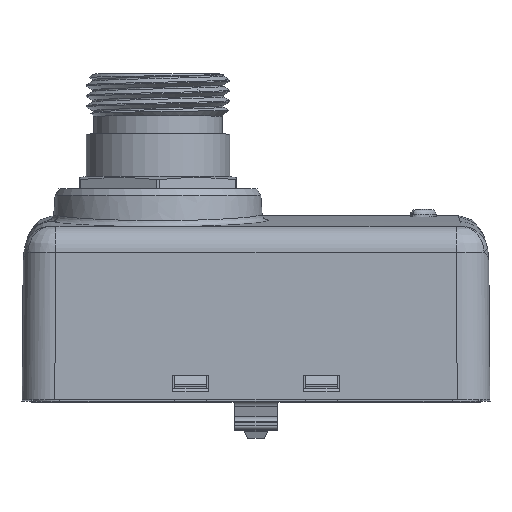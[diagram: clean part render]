
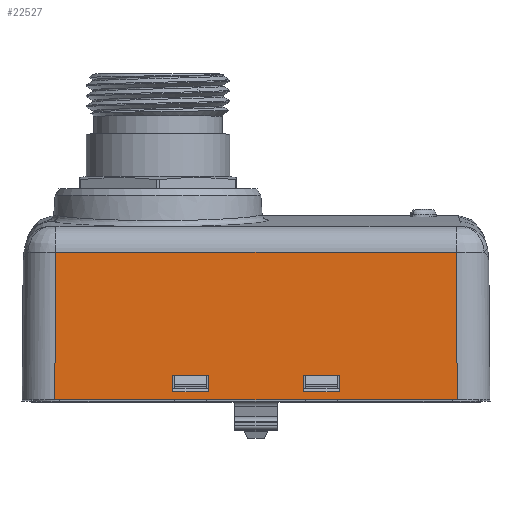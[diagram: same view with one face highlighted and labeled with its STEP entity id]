
A CAD part, top view. The second image highlights one B-rep face of the part: STEP entity #22527.
In plain terms, the highlighted planar face has unit normal (0, 0.009, 1).
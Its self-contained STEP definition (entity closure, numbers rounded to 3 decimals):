
#14218=CARTESIAN_POINT('',(-30.798,-15.3,55.798));
#14371=CARTESIAN_POINT('',(30.602,7.248,55.601));
#14615=CARTESIAN_POINT('',(-30.602,7.248,
55.601));
#14617=DIRECTION('',(-0.009,1.,-0.009));
#14618=VECTOR('',#14617,22.55);
#14619=CARTESIAN_POINT('',(30.798,-15.3,55.798));
#14620=LINE('',#14619,#14618);
#14621=DIRECTION('',(1.,0.,0.));
#14622=VECTOR('',#14621,61.597);
#14623=CARTESIAN_POINT('',(-30.798,-15.3,55.798));
#14624=LINE('',#14623,#14622);
#14625=DIRECTION('',(-0.009,-1.,0.009));
#14626=VECTOR('',#14625,22.55);
#14627=CARTESIAN_POINT('',(-30.602,7.248,
55.601));
#14628=LINE('',#14627,#14626);
#14629=DIRECTION('',(-1.,0.,0.));
#14630=VECTOR('',#14629,61.203);
#14631=CARTESIAN_POINT('',(30.602,7.248,55.601));
#14632=LINE('',#14631,#14630);
#18567=DIRECTION('',(0.,1.,-0.009));
#18568=VECTOR('',#18567,0.6);
#18569=CARTESIAN_POINT('',(7.25,-14.1,55.788));
#18570=LINE('',#18569,#18568);
#18571=DIRECTION('',(0.,1.,-0.009));
#18572=VECTOR('',#18571,2.);
#18573=CARTESIAN_POINT('',(7.25,-13.5,55.783));
#18574=LINE('',#18573,#18572);
#18591=DIRECTION('',(1.,0.,0.));
#18592=VECTOR('',#18591,5.5);
#18593=CARTESIAN_POINT('',(7.25,-14.1,55.788));
#18594=LINE('',#18593,#18592);
#18607=DIRECTION('',(0.,-1.,0.009));
#18608=VECTOR('',#18607,2.);
#18609=CARTESIAN_POINT('',(12.75,-11.5,55.765));
#18610=LINE('',#18609,#18608);
#18611=DIRECTION('',(0.,-1.,0.009));
#18612=VECTOR('',#18611,0.6);
#18613=CARTESIAN_POINT('',(12.75,-13.5,55.783));
#18614=LINE('',#18613,#18612);
#18619=DIRECTION('',(-1.,0.,0.));
#18620=VECTOR('',#18619,5.5);
#18621=CARTESIAN_POINT('',(12.75,-11.5,55.765));
#18622=LINE('',#18621,#18620);
#18635=DIRECTION('',(0.,1.,-0.009));
#18636=VECTOR('',#18635,0.6);
#18637=CARTESIAN_POINT('',(-12.75,-14.1,55.788));
#18638=LINE('',#18637,#18636);
#18639=DIRECTION('',(0.,1.,-0.009));
#18640=VECTOR('',#18639,2.);
#18641=CARTESIAN_POINT('',(-12.75,-13.5,55.783));
#18642=LINE('',#18641,#18640);
#18659=DIRECTION('',(1.,0.,0.));
#18660=VECTOR('',#18659,5.5);
#18661=CARTESIAN_POINT('',(-12.75,-14.1,55.788));
#18662=LINE('',#18661,#18660);
#18675=DIRECTION('',(0.,-1.,0.009));
#18676=VECTOR('',#18675,2.);
#18677=CARTESIAN_POINT('',(-7.25,-11.5,55.765));
#18678=LINE('',#18677,#18676);
#18679=DIRECTION('',(0.,-1.,0.009));
#18680=VECTOR('',#18679,0.6);
#18681=CARTESIAN_POINT('',(-7.25,-13.5,55.783));
#18682=LINE('',#18681,#18680);
#18687=DIRECTION('',(-1.,0.,0.));
#18688=VECTOR('',#18687,5.5);
#18689=CARTESIAN_POINT('',(-7.25,-11.5,55.765));
#18690=LINE('',#18689,#18688);
#20058=CARTESIAN_POINT('',(7.25,-13.5,55.783));
#20059=CARTESIAN_POINT('',(7.25,-11.5,55.765));
#20060=VERTEX_POINT('',#20058);
#20061=VERTEX_POINT('',#20059);
#20062=CARTESIAN_POINT('',(7.25,-14.1,55.788));
#20063=VERTEX_POINT('',#20062);
#20064=CARTESIAN_POINT('',(12.75,-14.1,55.788));
#20065=VERTEX_POINT('',#20064);
#20066=CARTESIAN_POINT('',(12.75,-13.5,55.783));
#20067=VERTEX_POINT('',#20066);
#20068=CARTESIAN_POINT('',(12.75,-11.5,55.765));
#20069=VERTEX_POINT('',#20068);
#20070=CARTESIAN_POINT('',(-12.75,-13.5,55.783));
#20071=CARTESIAN_POINT('',(-12.75,-11.5,55.765));
#20072=VERTEX_POINT('',#20070);
#20073=VERTEX_POINT('',#20071);
#20074=CARTESIAN_POINT('',(-12.75,-14.1,55.788));
#20075=VERTEX_POINT('',#20074);
#20076=CARTESIAN_POINT('',(-7.25,-14.1,55.788));
#20077=VERTEX_POINT('',#20076);
#20078=CARTESIAN_POINT('',(-7.25,-13.5,55.783));
#20079=VERTEX_POINT('',#20078);
#20080=CARTESIAN_POINT('',(-7.25,-11.5,55.765));
#20081=VERTEX_POINT('',#20080);
#20208=VERTEX_POINT('',#14371);
#20210=VERTEX_POINT('',#14615);
#20639=VERTEX_POINT('',#14218);
#20640=CARTESIAN_POINT('',(30.798,-15.3,55.798));
#20641=VERTEX_POINT('',#20640);
#22487=CARTESIAN_POINT('',(0.,-4.026,55.7));
#22488=DIRECTION('',(0.,0.009,1.));
#22489=DIRECTION('',(0.,1.,-0.009));
#22490=AXIS2_PLACEMENT_3D('',#22487,#22488,#22489);
#22491=PLANE('',#22490);
#22492=ORIENTED_EDGE('',*,*,#21987,.F.);
#22493=ORIENTED_EDGE('',*,*,#21603,.F.);
#22494=ORIENTED_EDGE('',*,*,#22476,.F.);
#22496=ORIENTED_EDGE('',*,*,#22495,.F.);
#22497=EDGE_LOOP('',(#22492,#22493,#22494,#22496));
#22498=FACE_OUTER_BOUND('',#22497,.F.);
#22500=ORIENTED_EDGE('',*,*,#22499,.F.);
#22502=ORIENTED_EDGE('',*,*,#22501,.F.);
#22504=ORIENTED_EDGE('',*,*,#22503,.T.);
#22506=ORIENTED_EDGE('',*,*,#22505,.F.);
#22508=ORIENTED_EDGE('',*,*,#22507,.F.);
#22510=ORIENTED_EDGE('',*,*,#22509,.T.);
#22511=EDGE_LOOP('',(#22500,#22502,#22504,#22506,#22508,#22510));
#22512=FACE_BOUND('',#22511,.F.);
#22514=ORIENTED_EDGE('',*,*,#22513,.F.);
#22516=ORIENTED_EDGE('',*,*,#22515,.F.);
#22518=ORIENTED_EDGE('',*,*,#22517,.T.);
#22520=ORIENTED_EDGE('',*,*,#22519,.F.);
#22522=ORIENTED_EDGE('',*,*,#22521,.F.);
#22524=ORIENTED_EDGE('',*,*,#22523,.T.);
#22525=EDGE_LOOP('',(#22514,#22516,#22518,#22520,#22522,#22524));
#22526=FACE_BOUND('',#22525,.F.);
#22527=ADVANCED_FACE('',(#22498,#22512,#22526),#22491,.T.);
#21603=EDGE_CURVE('',#20639,#20641,#14624,.T.);
#21987=EDGE_CURVE('',#20641,#20208,#14620,.T.);
#22476=EDGE_CURVE('',#20210,#20639,#14628,.T.);
#22495=EDGE_CURVE('',#20208,#20210,#14632,.T.);
#22499=EDGE_CURVE('',#20060,#20061,#18574,.T.);
#22501=EDGE_CURVE('',#20063,#20060,#18570,.T.);
#22503=EDGE_CURVE('',#20063,#20065,#18594,.T.);
#22505=EDGE_CURVE('',#20067,#20065,#18614,.T.);
#22507=EDGE_CURVE('',#20069,#20067,#18610,.T.);
#22509=EDGE_CURVE('',#20069,#20061,#18622,.T.);
#22513=EDGE_CURVE('',#20072,#20073,#18642,.T.);
#22515=EDGE_CURVE('',#20075,#20072,#18638,.T.);
#22517=EDGE_CURVE('',#20075,#20077,#18662,.T.);
#22519=EDGE_CURVE('',#20079,#20077,#18682,.T.);
#22521=EDGE_CURVE('',#20081,#20079,#18678,.T.);
#22523=EDGE_CURVE('',#20081,#20073,#18690,.T.);
